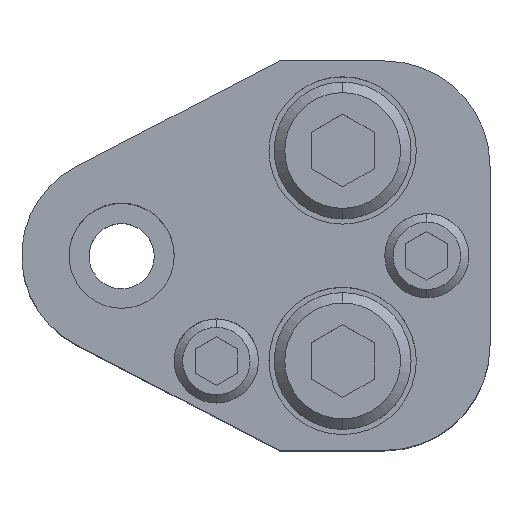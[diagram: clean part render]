
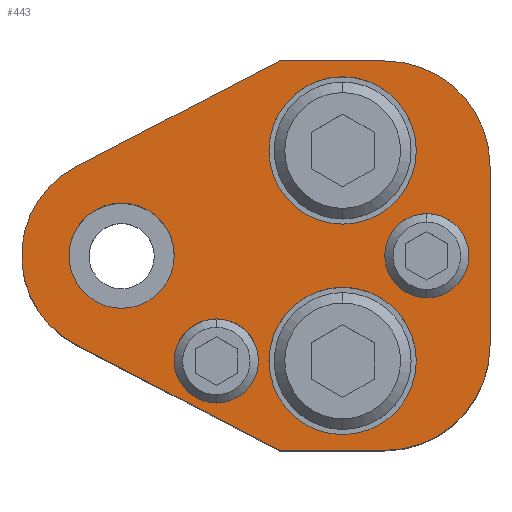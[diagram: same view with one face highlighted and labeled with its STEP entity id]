
A CAD part, top view. The second image highlights one B-rep face of the part: STEP entity #443.
In plain terms, the highlighted planar face has unit normal (0, 0, 1).
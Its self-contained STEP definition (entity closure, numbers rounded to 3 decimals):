
#206=FACE_BOUND('',#803,.T.);
#207=FACE_BOUND('',#804,.T.);
#208=FACE_BOUND('',#805,.T.);
#209=FACE_BOUND('',#806,.T.);
#210=FACE_BOUND('',#807,.T.);
#211=FACE_BOUND('',#808,.T.);
#269=CIRCLE('',#2664,10.);
#271=CIRCLE('',#2668,10.);
#274=CIRCLE('',#2673,4.);
#276=CIRCLE('',#2676,4.);
#278=CIRCLE('',#2679,4.);
#280=CIRCLE('',#2682,4.);
#289=CIRCLE('',#2696,9.5);
#290=CIRCLE('',#2697,7.);
#291=CIRCLE('',#2698,7.);
#292=CIRCLE('',#2699,7.);
#293=CIRCLE('',#2700,7.);
#294=CIRCLE('',#2701,5.);
#295=CIRCLE('',#2702,5.);
#443=ADVANCED_FACE('',(#206,#207,#208,#209,#210,#211),#575,.T.);
#575=PLANE('',#2703);
#803=EDGE_LOOP('',(#1125,#1126,#1127,#1128,#1129,#1130,#1131,#1132));
#804=EDGE_LOOP('',(#1133,#1134));
#805=EDGE_LOOP('',(#1135,#1136));
#806=EDGE_LOOP('',(#1137,#1138));
#807=EDGE_LOOP('',(#1139,#1140));
#808=EDGE_LOOP('',(#1141,#1142));
#1125=ORIENTED_EDGE('',*,*,#1974,.T.);
#1126=ORIENTED_EDGE('',*,*,#1975,.T.);
#1127=ORIENTED_EDGE('',*,*,#1935,.T.);
#1128=ORIENTED_EDGE('',*,*,#1939,.T.);
#1129=ORIENTED_EDGE('',*,*,#1942,.T.);
#1130=ORIENTED_EDGE('',*,*,#1945,.T.);
#1131=ORIENTED_EDGE('',*,*,#1948,.T.);
#1132=ORIENTED_EDGE('',*,*,#1976,.T.);
#1133=ORIENTED_EDGE('',*,*,#1977,.F.);
#1134=ORIENTED_EDGE('',*,*,#1978,.F.);
#1135=ORIENTED_EDGE('',*,*,#1979,.F.);
#1136=ORIENTED_EDGE('',*,*,#1980,.F.);
#1137=ORIENTED_EDGE('',*,*,#1961,.F.);
#1138=ORIENTED_EDGE('',*,*,#1958,.F.);
#1139=ORIENTED_EDGE('',*,*,#1955,.F.);
#1140=ORIENTED_EDGE('',*,*,#1952,.F.);
#1141=ORIENTED_EDGE('',*,*,#1981,.T.);
#1142=ORIENTED_EDGE('',*,*,#1982,.T.);
#1686=VERTEX_POINT('',#3857);
#1687=VERTEX_POINT('',#3859);
#1690=VERTEX_POINT('',#3866);
#1692=VERTEX_POINT('',#3872);
#1694=VERTEX_POINT('',#3878);
#1696=VERTEX_POINT('',#3884);
#1699=VERTEX_POINT('',#3892);
#1700=VERTEX_POINT('',#3894);
#1703=VERTEX_POINT('',#3904);
#1704=VERTEX_POINT('',#3906);
#1713=VERTEX_POINT('',#3937);
#1714=VERTEX_POINT('',#3938);
#1715=VERTEX_POINT('',#3942);
#1716=VERTEX_POINT('',#3943);
#1717=VERTEX_POINT('',#3946);
#1718=VERTEX_POINT('',#3947);
#1719=VERTEX_POINT('',#3950);
#1720=VERTEX_POINT('',#3951);
#1935=EDGE_CURVE('',#1687,#1686,#2269,.T.);
#1939=EDGE_CURVE('',#1686,#1690,#269,.T.);
#1942=EDGE_CURVE('',#1690,#1692,#2274,.T.);
#1945=EDGE_CURVE('',#1692,#1694,#271,.T.);
#1948=EDGE_CURVE('',#1694,#1696,#2278,.T.);
#1952=EDGE_CURVE('',#1699,#1700,#274,.T.);
#1955=EDGE_CURVE('',#1700,#1699,#276,.T.);
#1958=EDGE_CURVE('',#1703,#1704,#278,.T.);
#1961=EDGE_CURVE('',#1704,#1703,#280,.T.);
#1974=EDGE_CURVE('',#1713,#1714,#289,.T.);
#1975=EDGE_CURVE('',#1714,#1687,#2288,.T.);
#1976=EDGE_CURVE('',#1696,#1713,#2289,.T.);
#1977=EDGE_CURVE('',#1715,#1716,#290,.T.);
#1978=EDGE_CURVE('',#1716,#1715,#291,.T.);
#1979=EDGE_CURVE('',#1717,#1718,#292,.T.);
#1980=EDGE_CURVE('',#1718,#1717,#293,.T.);
#1981=EDGE_CURVE('',#1719,#1720,#294,.T.);
#1982=EDGE_CURVE('',#1720,#1719,#295,.T.);
#2269=LINE('',#3858,#2467);
#2274=LINE('',#3873,#2472);
#2278=LINE('',#3885,#2476);
#2288=LINE('',#3939,#2486);
#2289=LINE('',#3940,#2487);
#2467=VECTOR('',#3061,1.);
#2472=VECTOR('',#3074,1.);
#2476=VECTOR('',#3086,1.);
#2486=VECTOR('',#3148,1.);
#2487=VECTOR('',#3149,1.);
#2664=AXIS2_PLACEMENT_3D('',#3867,#3067,#3068);
#2668=AXIS2_PLACEMENT_3D('',#3879,#3079,#3080);
#2673=AXIS2_PLACEMENT_3D('',#3893,#3093,#3094);
#2676=AXIS2_PLACEMENT_3D('',#3898,#3100,#3101);
#2679=AXIS2_PLACEMENT_3D('',#3905,#3107,#3108);
#2682=AXIS2_PLACEMENT_3D('',#3910,#3114,#3115);
#2696=AXIS2_PLACEMENT_3D('',#3936,#3146,#3147);
#2697=AXIS2_PLACEMENT_3D('',#3941,#3150,#3151);
#2698=AXIS2_PLACEMENT_3D('',#3944,#3152,#3153);
#2699=AXIS2_PLACEMENT_3D('',#3945,#3154,#3155);
#2700=AXIS2_PLACEMENT_3D('',#3948,#3156,#3157);
#2701=AXIS2_PLACEMENT_3D('',#3949,#3158,#3159);
#2702=AXIS2_PLACEMENT_3D('',#3952,#3160,#3161);
#2703=AXIS2_PLACEMENT_3D('',#3953,#3162,#3163);
#3061=DIRECTION('',(1.,0.,0.));
#3067=DIRECTION('',(0.,0.,1.));
#3068=DIRECTION('',(-0.707,0.707,0.));
#3074=DIRECTION('',(0.,1.,0.));
#3079=DIRECTION('',(0.,0.,1.));
#3080=DIRECTION('',(-0.707,-0.707,0.));
#3086=DIRECTION('',(-1.,0.,0.));
#3093=DIRECTION('',(0.,0.,1.));
#3094=DIRECTION('',(-1.,0.,0.));
#3100=DIRECTION('',(0.,0.,1.));
#3101=DIRECTION('',(1.,0.,0.));
#3107=DIRECTION('',(0.,0.,1.));
#3108=DIRECTION('',(-1.,0.,0.));
#3114=DIRECTION('',(0.,0.,1.));
#3115=DIRECTION('',(1.,0.,0.));
#3146=DIRECTION('',(0.,0.,1.));
#3147=DIRECTION('',(0.,1.,0.));
#3148=DIRECTION('',(0.887,-0.461,0.));
#3149=DIRECTION('',(-0.887,-0.461,0.));
#3150=DIRECTION('',(0.,0.,1.));
#3151=DIRECTION('',(1.,0.,0.));
#3152=DIRECTION('',(0.,0.,1.));
#3153=DIRECTION('',(-1.,0.,0.));
#3154=DIRECTION('',(0.,0.,1.));
#3155=DIRECTION('',(1.,0.,0.));
#3156=DIRECTION('',(0.,0.,1.));
#3157=DIRECTION('',(-1.,0.,0.));
#3158=DIRECTION('',(0.,0.,-1.));
#3159=DIRECTION('',(-1.,0.,0.));
#3160=DIRECTION('',(0.,0.,-1.));
#3161=DIRECTION('',(1.,0.,0.));
#3162=DIRECTION('',(0.,0.,1.));
#3163=DIRECTION('',(0.887,0.461,0.));
#3857=CARTESIAN_POINT('',(25.,-18.5,35.));
#3858=CARTESIAN_POINT('',(15.,-18.5,35.));
#3859=CARTESIAN_POINT('',(15.,-18.5,35.));
#3866=CARTESIAN_POINT('',(35.,-8.5,35.));
#3867=CARTESIAN_POINT('',(25.,-8.5,35.));
#3872=CARTESIAN_POINT('',(35.,8.5,35.));
#3873=CARTESIAN_POINT('',(35.,-8.5,35.));
#3878=CARTESIAN_POINT('',(25.,18.5,35.));
#3879=CARTESIAN_POINT('',(25.,8.5,35.));
#3884=CARTESIAN_POINT('',(15.,18.5,35.));
#3885=CARTESIAN_POINT('',(15.,18.5,35.));
#3892=CARTESIAN_POINT('',(9.,-14.,35.));
#3893=CARTESIAN_POINT('',(9.,-10.,35.));
#3894=CARTESIAN_POINT('',(9.,-6.,35.));
#3898=CARTESIAN_POINT('',(9.,-10.,35.));
#3904=CARTESIAN_POINT('',(29.,-4.,35.));
#3905=CARTESIAN_POINT('',(29.,0.,35.));
#3906=CARTESIAN_POINT('',(29.,4.,35.));
#3910=CARTESIAN_POINT('',(29.,0.,35.));
#3936=CARTESIAN_POINT('',(0.,0.,35.));
#3937=CARTESIAN_POINT('',(-4.38,8.43,35.));
#3938=CARTESIAN_POINT('',(-4.38,-8.43,35.));
#3939=CARTESIAN_POINT('',(15.,-18.5,35.));
#3940=CARTESIAN_POINT('',(15.,18.5,35.));
#3941=CARTESIAN_POINT('',(21.,-10.,35.));
#3942=CARTESIAN_POINT('',(21.,-3.,35.));
#3943=CARTESIAN_POINT('',(21.,-17.,35.));
#3944=CARTESIAN_POINT('',(21.,-10.,35.));
#3945=CARTESIAN_POINT('',(21.,10.,35.));
#3946=CARTESIAN_POINT('',(21.,17.,35.));
#3947=CARTESIAN_POINT('',(21.,3.,35.));
#3948=CARTESIAN_POINT('',(21.,10.,35.));
#3949=CARTESIAN_POINT('',(0.,0.,35.));
#3950=CARTESIAN_POINT('',(0.,5.,35.));
#3951=CARTESIAN_POINT('',(0.,-5.,35.));
#3952=CARTESIAN_POINT('',(0.,0.,35.));
#3953=CARTESIAN_POINT('',(-4.38,8.43,35.));
